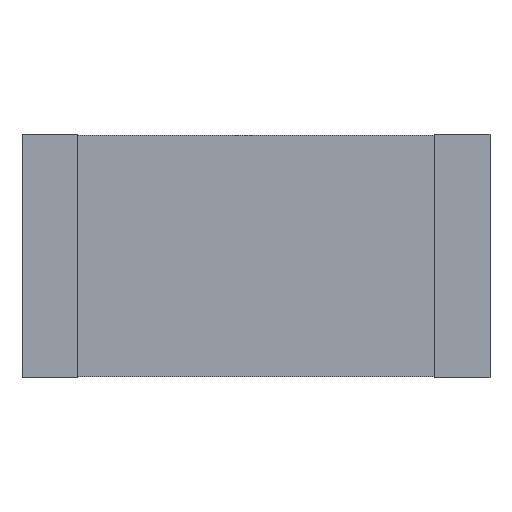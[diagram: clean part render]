
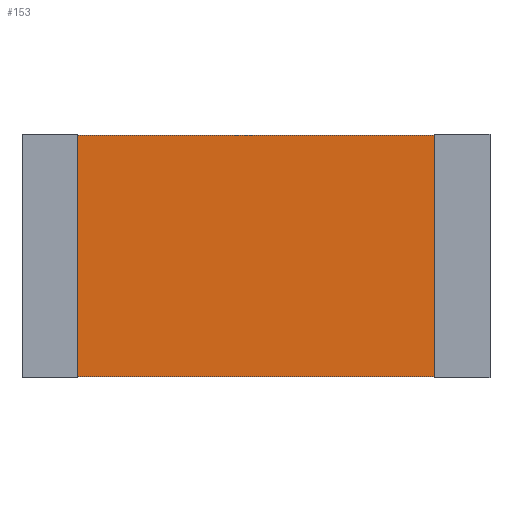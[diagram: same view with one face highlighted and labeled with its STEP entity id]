
A CAD part, top view. The second image highlights one B-rep face of the part: STEP entity #153.
In plain terms, the highlighted planar face has unit normal (0, 0, 1).
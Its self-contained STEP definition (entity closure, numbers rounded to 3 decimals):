
#24 = VERTEX_POINT('',#25);
#25 = CARTESIAN_POINT('',(-1.6,-0.825,0.7));
#31 = EDGE_CURVE('',#24,#32,#34,.T.);
#32 = VERTEX_POINT('',#33);
#33 = CARTESIAN_POINT('',(1.6,-0.825,0.7));
#34 = LINE('',#35,#36);
#35 = CARTESIAN_POINT('',(-1.6,-0.825,0.7));
#36 = VECTOR('',#37,1.);
#37 = DIRECTION('',(1.,0.,0.));
#62 = EDGE_CURVE('',#32,#63,#65,.T.);
#63 = VERTEX_POINT('',#64);
#64 = CARTESIAN_POINT('',(1.6,0.825,0.7));
#65 = LINE('',#66,#67);
#66 = CARTESIAN_POINT('',(1.6,-0.825,0.7));
#67 = VECTOR('',#68,1.);
#68 = DIRECTION('',(0.,1.,0.));
#93 = EDGE_CURVE('',#63,#94,#96,.T.);
#94 = VERTEX_POINT('',#95);
#95 = CARTESIAN_POINT('',(-1.6,0.825,0.7));
#96 = LINE('',#97,#98);
#97 = CARTESIAN_POINT('',(1.6,0.825,0.7));
#98 = VECTOR('',#99,1.);
#99 = DIRECTION('',(-1.,0.,0.));
#124 = EDGE_CURVE('',#94,#24,#125,.T.);
#125 = LINE('',#126,#127);
#126 = CARTESIAN_POINT('',(-1.6,0.825,0.7));
#127 = VECTOR('',#128,1.);
#128 = DIRECTION('',(0.,-1.,0.));
#153 = ADVANCED_FACE('',(#154),#160,.T.);
#154 = FACE_BOUND('',#155,.T.);
#155 = EDGE_LOOP('',(#156,#157,#158,#159));
#156 = ORIENTED_EDGE('',*,*,#31,.T.);
#157 = ORIENTED_EDGE('',*,*,#62,.T.);
#158 = ORIENTED_EDGE('',*,*,#93,.T.);
#159 = ORIENTED_EDGE('',*,*,#124,.T.);
#160 = PLANE('',#161);
#161 = AXIS2_PLACEMENT_3D('',#162,#163,#164);
#162 = CARTESIAN_POINT('',(0.,0.,0.7));
#163 = DIRECTION('',(0.,0.,1.));
#164 = DIRECTION('',(1.,0.,-0.));
